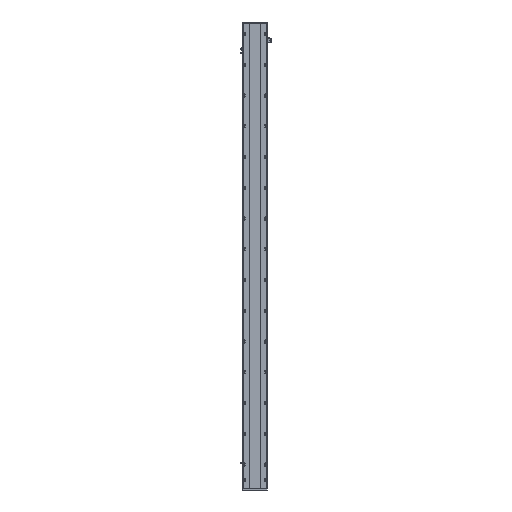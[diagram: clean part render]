
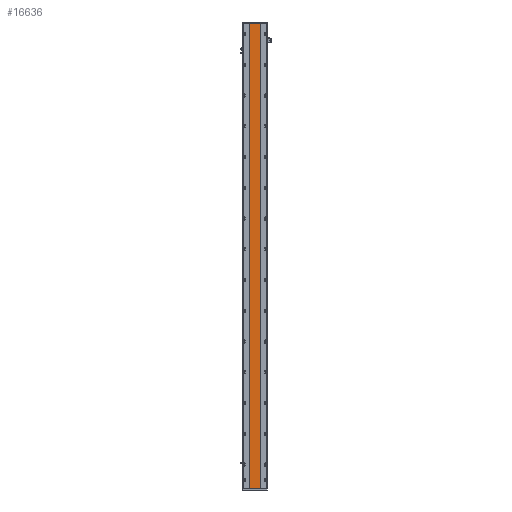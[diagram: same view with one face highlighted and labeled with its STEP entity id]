
A CAD part, front view. The second image highlights one B-rep face of the part: STEP entity #16636.
In plain terms, the highlighted planar face has unit normal (0, -1, 0).
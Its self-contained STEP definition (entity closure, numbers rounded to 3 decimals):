
#4762 = EDGE_CURVE ( 'NONE', #38626, #50065, #34534, .T. ) ;
#5467 = ORIENTED_EDGE ( 'NONE', *, *, #27287, .T. ) ;
#7397 = ORIENTED_EDGE ( 'NONE', *, *, #4762, .F. ) ;
#11365 = VECTOR ( 'NONE', #27484, 1000. ) ;
#12369 = AXIS2_PLACEMENT_3D ( 'NONE', #40585, #40409, #20988 ) ;
#14388 = LINE ( 'NONE', #35519, #11365 ) ;
#15154 = CARTESIAN_POINT ( 'NONE',  ( 205.288, 16.9, 3268. ) ) ;
#15804 = DIRECTION ( 'NONE',  ( 1., 0., 0. ) ) ;
#16134 = CARTESIAN_POINT ( 'NONE',  ( 129.288, 16.9, 0. ) ) ;
#16636 = ADVANCED_FACE ( 'NONE', ( #35153 ), #17437, .F. ) ;
#17437 = PLANE ( 'NONE',  #12369 ) ;
#18606 = LINE ( 'NONE', #27695, #49100 ) ;
#19083 = DIRECTION ( 'NONE',  ( 0., 0., -1. ) ) ;
#20370 = VERTEX_POINT ( 'NONE', #25482 ) ;
#20988 = DIRECTION ( 'NONE',  ( -1., 0., 0. ) ) ;
#23379 = ORIENTED_EDGE ( 'NONE', *, *, #36744, .T. ) ;
#25482 = CARTESIAN_POINT ( 'NONE',  ( 129.288, 16.9, 3268. ) ) ;
#25763 = EDGE_LOOP ( 'NONE', ( #23379, #7397, #44387, #5467 ) ) ;
#27287 = EDGE_CURVE ( 'NONE', #20370, #34052, #14388, .T. ) ;
#27484 = DIRECTION ( 'NONE',  ( 0., 0., -1. ) ) ;
#27695 = CARTESIAN_POINT ( 'NONE',  ( 129.288, 16.9, 3268. ) ) ;
#27764 = DIRECTION ( 'NONE',  ( 1., 0., 0. ) ) ;
#34052 = VERTEX_POINT ( 'NONE', #16134 ) ;
#34316 = VECTOR ( 'NONE', #27764, 1000. ) ;
#34534 = LINE ( 'NONE', #15154, #48625 ) ;
#35153 = FACE_OUTER_BOUND ( 'NONE', #25763, .T. ) ;
#35519 = CARTESIAN_POINT ( 'NONE',  ( 129.288, 16.9, 3268. ) ) ;
#35762 = EDGE_CURVE ( 'NONE', #20370, #38626, #18606, .T. ) ;
#36744 = EDGE_CURVE ( 'NONE', #34052, #50065, #46524, .T. ) ;
#38626 = VERTEX_POINT ( 'NONE', #38825 ) ;
#38825 = CARTESIAN_POINT ( 'NONE',  ( 205.288, 16.9, 3268. ) ) ;
#40409 = DIRECTION ( 'NONE',  ( 0., 1., 0. ) ) ;
#40585 = CARTESIAN_POINT ( 'NONE',  ( 205.288, 16.9, 3268. ) ) ;
#43134 = CARTESIAN_POINT ( 'NONE',  ( 205.288, 16.9, 0. ) ) ;
#44387 = ORIENTED_EDGE ( 'NONE', *, *, #35762, .F. ) ;
#45421 = CARTESIAN_POINT ( 'NONE',  ( 205.288, 16.9, 0. ) ) ;
#46524 = LINE ( 'NONE', #43134, #34316 ) ;
#48625 = VECTOR ( 'NONE', #19083, 1000. ) ;
#49100 = VECTOR ( 'NONE', #15804, 1000. ) ;
#50065 = VERTEX_POINT ( 'NONE', #45421 ) ;
